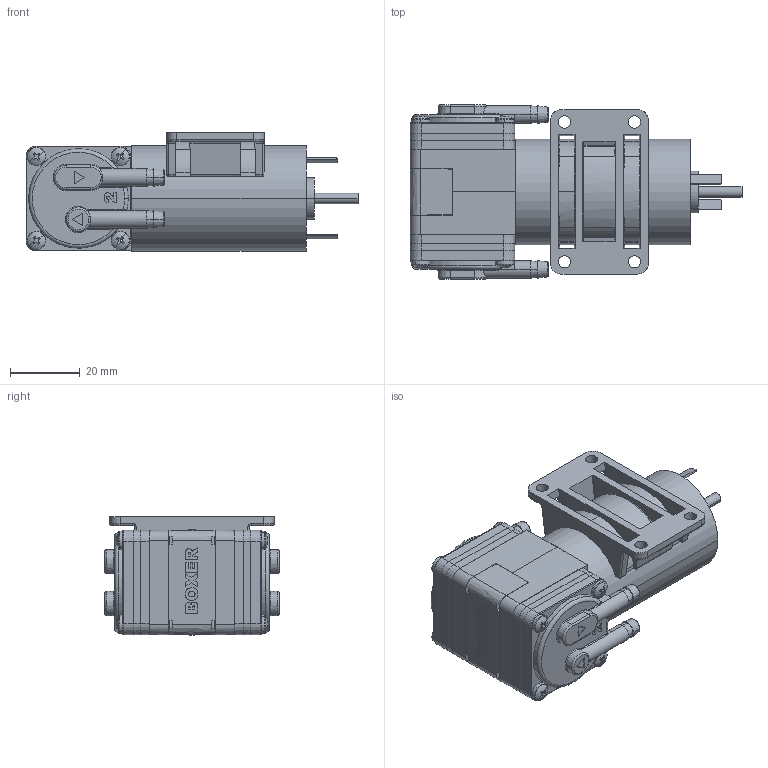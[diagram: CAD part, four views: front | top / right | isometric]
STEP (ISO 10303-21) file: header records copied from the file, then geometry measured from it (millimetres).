
FILE_DESCRIPTION (( 'STEP AP203' ), '1' );
FILE_NAME ('10K w. Base.STEP', '2015-03-13T20:38:15', ( 'USER' ), ( '' ), 'SwSTEP 2.0', 'SolidWorks 2014', '' );
FILE_SCHEMA (( 'CONFIG_CONTROL_DESIGN' ));
Length unit declared in the file: millimetre
Products named in the file (1): 10K w. Base
Bounding box: 95 x 49.9 x 33.9 mm (x, y, z)
Surface area: 20419.1 mm2 (no closed solid volume)
Topology: 0 solids, 16 shells, 684 faces, 2100 edges, 1408 vertices
Faces by surface type: plane 322, cylinder 124, cone 94, bspline 66, torus 58, sphere 20
Entity records: 26455 total; most frequent: CARTESIAN_POINT 8202, DIRECTION 3731, ORIENTED_EDGE 3654, EDGE_CURVE 2100, VERTEX_POINT 1408, AXIS2_PLACEMENT_3D 1378, LINE 975, VECTOR 975
